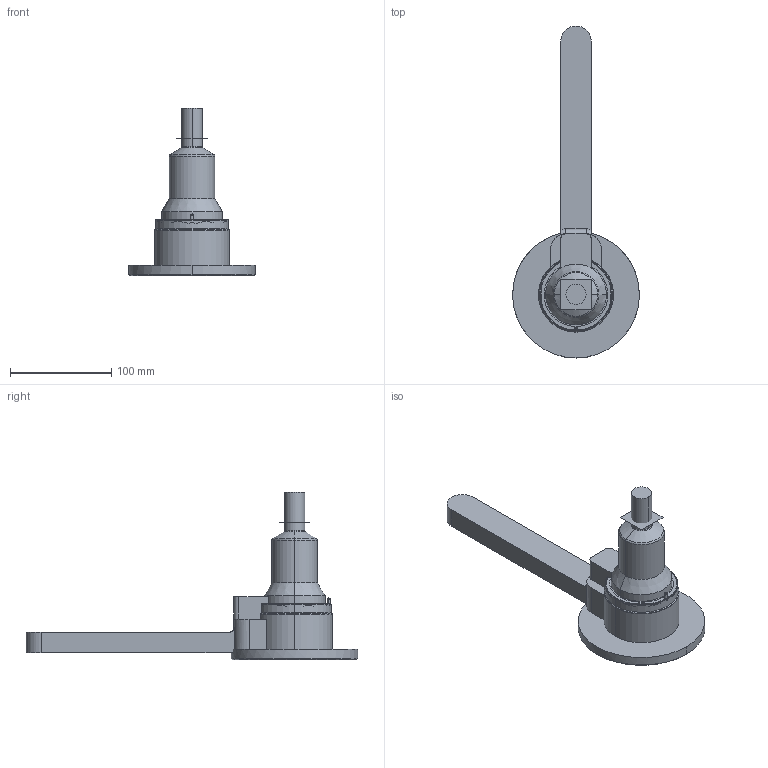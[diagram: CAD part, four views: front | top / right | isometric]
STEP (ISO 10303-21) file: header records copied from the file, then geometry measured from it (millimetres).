
FILE_DESCRIPTION (( 'STEP AP214' ), '1' );
FILE_NAME ('16S-06-080-##P.STEP', '2021-07-15T13:39:37', ( '' ), ( '' ), 'SwSTEP 2.0', 'SolidWorks 2018', '' );
FILE_SCHEMA (( 'AUTOMOTIVE_DESIGN' ));
Length unit declared in the file: millimetre
Products named in the file (3): 16S-06-080-##P; cutout_16S-06-080-##P; nozzle_16S-06-080-##P
Assembly tree (2 placements, depth 2):
  16S-06-080-##P
    nozzle_16S-06-080-##P
    cutout_16S-06-080-##P
Bounding box: 125 x 327.5 x 165 mm (x, y, z)
Volume: 583130.8 mm3; surface area: 132716.4 mm2
Topology: 1 solids, 10 shells, 773 faces, 2073 edges, 1291 vertices
Faces by surface type: plane 266, cylinder 241, cone 113, bspline 94, torus 56, sphere 3
Entity records: 38055 total; most frequent: CARTESIAN_POINT 19054, ORIENTED_EDGE 4116, DIRECTION 3754, EDGE_CURVE 2060, AXIS2_PLACEMENT_3D 1441, VERTEX_POINT 1291, LINE 872, VECTOR 872
